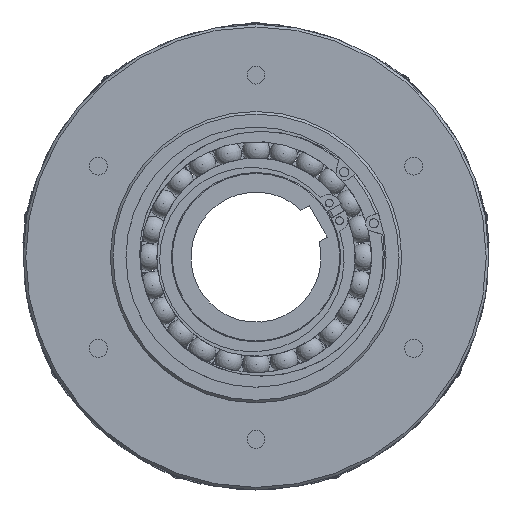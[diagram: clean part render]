
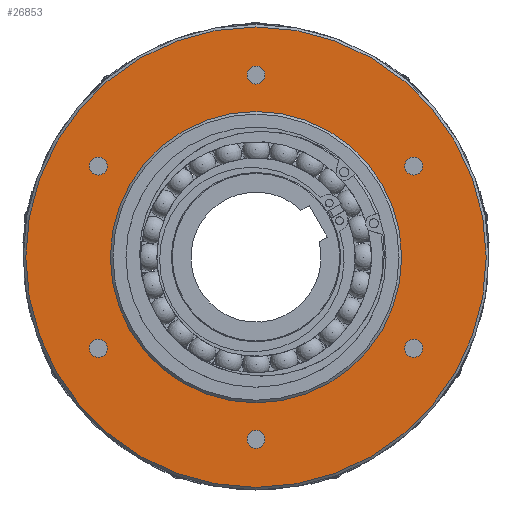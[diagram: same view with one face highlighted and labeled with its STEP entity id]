
A CAD part, left-side view. The second image highlights one B-rep face of the part: STEP entity #26853.
In plain terms, the highlighted planar face has unit normal (-1, 0, 0).
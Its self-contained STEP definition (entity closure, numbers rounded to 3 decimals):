
#26733=CARTESIAN_POINT('',(-114.,-28.,48.497));
#26734=VERTEX_POINT('',#26733);
#26735=CARTESIAN_POINT('',(-114.,0.,0.));
#26736=DIRECTION('',(1.0,0.,0.));
#26737=DIRECTION('',(0.,-0.5,0.866));
#26738=AXIS2_PLACEMENT_3D('',#26735,#26736,#26737);
#26739=CIRCLE('',#26738,56.);
#26740=EDGE_CURVE('',#26734,#26734,#26739,.T.);
#26768=CARTESIAN_POINT('',(-114.,-36.375,63.003));
#26769=DIRECTION('',(-1.0,0.0,0.0));
#26770=DIRECTION('',(0.0,-0.866,-0.5));
#26771=AXIS2_PLACEMENT_3D('',#26768,#26769,#26770);
#26772=PLANE('',#26771);
#26773=CARTESIAN_POINT('',(-114.,-44.25,76.643));
#26774=VERTEX_POINT('',#26773);
#26775=CARTESIAN_POINT('',(-114.,0.,0.));
#26776=DIRECTION('',(1.0,0.,0.));
#26777=DIRECTION('',(0.,0.5,-0.866));
#26778=AXIS2_PLACEMENT_3D('',#26775,#26776,#26777);
#26779=CIRCLE('',#26778,88.5);
#26780=EDGE_CURVE('',#26774,#26774,#26779,.T.);
#26781=ORIENTED_EDGE('',*,*,#26780,.F.);
#26782=EDGE_LOOP('',(#26781));
#26783=FACE_OUTER_BOUND('',#26782,.T.);
#26784=CARTESIAN_POINT('',(-114.,-63.617,36.729));
#26785=VERTEX_POINT('',#26784);
#26786=CARTESIAN_POINT('',(-114.,-60.622,35.));
#26787=DIRECTION('',(1.,0.,0.));
#26788=DIRECTION('',(0.,-0.866,0.5));
#26789=AXIS2_PLACEMENT_3D('',#26786,#26787,#26788);
#26790=CIRCLE('',#26789,3.459);
#26791=EDGE_CURVE('',#26785,#26785,#26790,.T.);
#26792=ORIENTED_EDGE('',*,*,#26791,.T.);
#26793=EDGE_LOOP('',(#26792));
#26794=FACE_BOUND('',#26793,.T.);
#26795=CARTESIAN_POINT('',(-114.,0.,73.458));
#26796=VERTEX_POINT('',#26795);
#26797=CARTESIAN_POINT('',(-114.,0.,70.));
#26798=DIRECTION('',(1.0,0.0,0.0));
#26799=DIRECTION('',(0.0,0.0,1.0));
#26800=AXIS2_PLACEMENT_3D('',#26797,#26798,#26799);
#26801=CIRCLE('',#26800,3.459);
#26802=EDGE_CURVE('',#26796,#26796,#26801,.T.);
#26803=ORIENTED_EDGE('',*,*,#26802,.T.);
#26804=EDGE_LOOP('',(#26803));
#26805=FACE_BOUND('',#26804,.T.);
#26806=CARTESIAN_POINT('',(-114.,63.617,36.729));
#26807=VERTEX_POINT('',#26806);
#26808=CARTESIAN_POINT('',(-114.,60.622,35.));
#26809=DIRECTION('',(1.0,0.,0.));
#26810=DIRECTION('',(0.,0.866,0.5));
#26811=AXIS2_PLACEMENT_3D('',#26808,#26809,#26810);
#26812=CIRCLE('',#26811,3.459);
#26813=EDGE_CURVE('',#26807,#26807,#26812,.T.);
#26814=ORIENTED_EDGE('',*,*,#26813,.T.);
#26815=EDGE_LOOP('',(#26814));
#26816=FACE_BOUND('',#26815,.T.);
#26817=CARTESIAN_POINT('',(-114.,63.617,-36.729));
#26818=VERTEX_POINT('',#26817);
#26819=CARTESIAN_POINT('',(-114.,60.622,-35.));
#26820=DIRECTION('',(1.0,0.,0.));
#26821=DIRECTION('',(0.,0.866,-0.5));
#26822=AXIS2_PLACEMENT_3D('',#26819,#26820,#26821);
#26823=CIRCLE('',#26822,3.459);
#26824=EDGE_CURVE('',#26818,#26818,#26823,.T.);
#26825=ORIENTED_EDGE('',*,*,#26824,.T.);
#26826=EDGE_LOOP('',(#26825));
#26827=FACE_BOUND('',#26826,.T.);
#26828=CARTESIAN_POINT('',(-114.,0.,-73.459));
#26829=VERTEX_POINT('',#26828);
#26830=CARTESIAN_POINT('',(-114.,0.,-70.));
#26831=DIRECTION('',(1.0,0.0,0.0));
#26832=DIRECTION('',(0.0,0.0,-1.0));
#26833=AXIS2_PLACEMENT_3D('',#26830,#26831,#26832);
#26834=CIRCLE('',#26833,3.459);
#26835=EDGE_CURVE('',#26829,#26829,#26834,.T.);
#26836=ORIENTED_EDGE('',*,*,#26835,.T.);
#26837=EDGE_LOOP('',(#26836));
#26838=FACE_BOUND('',#26837,.T.);
#26839=CARTESIAN_POINT('',(-114.,-63.617,-36.729));
#26840=VERTEX_POINT('',#26839);
#26841=CARTESIAN_POINT('',(-114.,-60.622,-35.));
#26842=DIRECTION('',(1.,0.,0.));
#26843=DIRECTION('',(0.,-0.866,-0.5));
#26844=AXIS2_PLACEMENT_3D('',#26841,#26842,#26843);
#26845=CIRCLE('',#26844,3.459);
#26846=EDGE_CURVE('',#26840,#26840,#26845,.T.);
#26847=ORIENTED_EDGE('',*,*,#26846,.T.);
#26848=EDGE_LOOP('',(#26847));
#26849=FACE_BOUND('',#26848,.T.);
#26850=ORIENTED_EDGE('',*,*,#26740,.T.);
#26851=EDGE_LOOP('',(#26850));
#26852=FACE_BOUND('',#26851,.T.);
#26853=ADVANCED_FACE('',(#26783,#26794,#26805,#26816,#26827,#26838,#26849,#26852),#26772,.T.);
